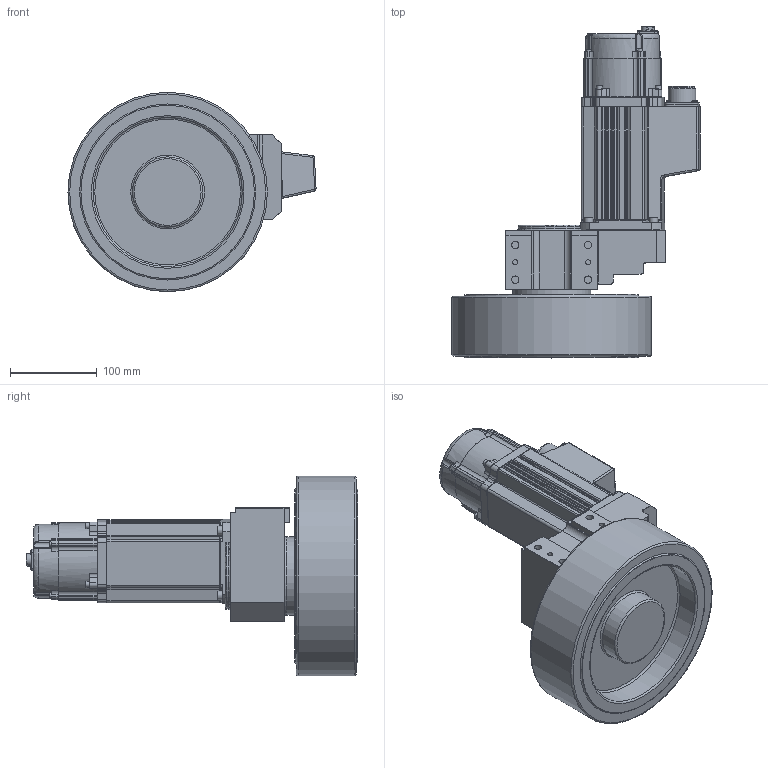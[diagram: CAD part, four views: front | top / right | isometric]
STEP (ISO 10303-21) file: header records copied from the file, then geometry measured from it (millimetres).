
FILE_DESCRIPTION(('STEP AP203'),'1');
FILE_NAME('cad-stp-mt-DP-W040B-T23.stp','2023-04-04T04:21:01',(' '),(' '),'Spatial InterOp 3D',' ',' ');
FILE_SCHEMA(('CONFIG_CONTROL_DESIGN'));
Length unit declared in the file: millimetre
Products named in the file (1): DP-W040B
Bounding box: 286.1 x 382.55 x 230 mm (x, y, z)
Volume: 5469161.7 mm3; surface area: 333752.8 mm2
Topology: 1 solids, 70 shells, 2091 faces, 5085 edges, 3222 vertices
Faces by surface type: plane 1046, cylinder 591, cone 267, bspline 152, torus 28, sphere 7
Full cylindrical faces by diameter (mm): 0.756 x10, 0.8 x10, 1 x4, 1.43 x10, 1.6 x10, 1.7 x10, 2 x7, 2.05 x4, 2.5 x40, 2.8 x7, 3 x12, 3.1 x4, 3.2 x4, 3.3 x4, 3.5 x4, 4 x8, 4.5 x12, 5 x22, 5.5 x8, 6 x14, 6.5 x4, 7 x8, 8 x8, 8.5 x8, 9.55 x1, 10 x4, 10.55 x1, 10.6 x2, 11 x1, 11.6 x1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
Entity records: 87415 total; most frequent: CARTESIAN_POINT 41151, DIRECTION 9372, ORIENTED_EDGE 9150, EDGE_CURVE 4575, AXIS2_PLACEMENT_3D 3446, VERTEX_POINT 3072, EDGE_LOOP 2633, LINE 2480
